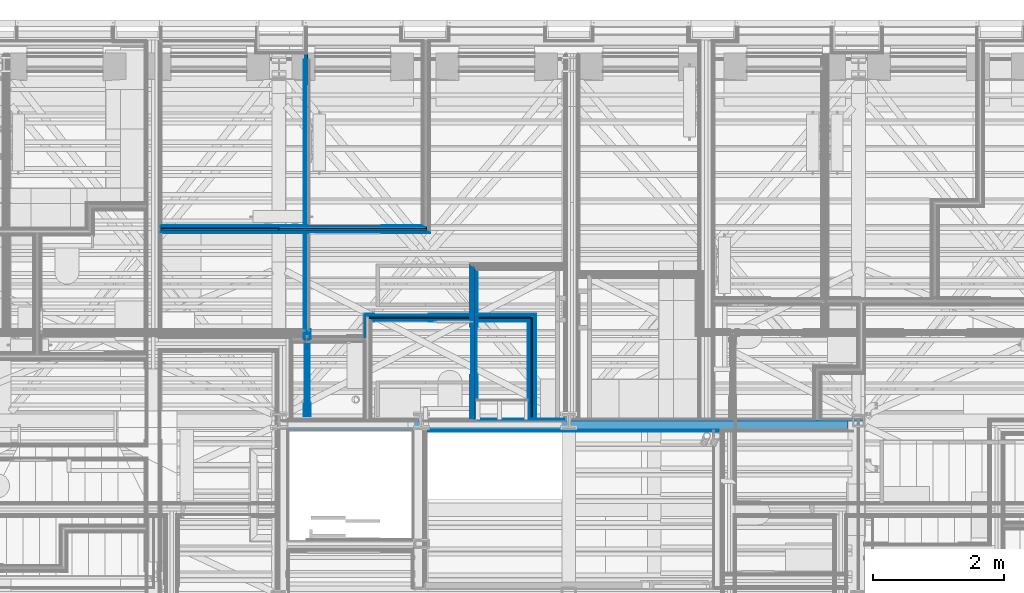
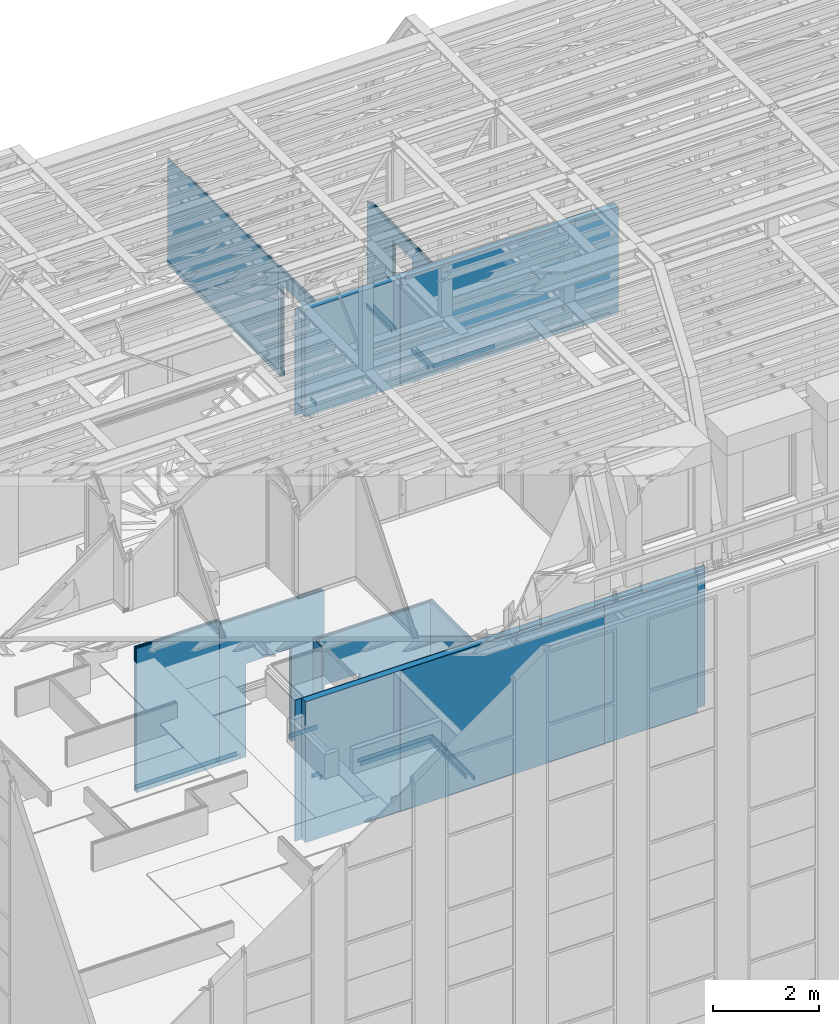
# One storey, part 46 of 183: 53 building element parts, 4 openings, 9 elements without a shape of their own.
"""IFC2X3 building model written with IfcOpenShell, lengths in metres."""

from ifc_helpers import new_model, entity, si_unit, converted_unit, derived_unit, money_unit, direction, frame, frame_2d, origin_with_axes, place, context, subcontext, project, spatial, polyline, rectangle, outline, extrude, clip, halfspace, material, type_object, element, aggregate, save


model = new_model("IFC2X3")

# Units and contexts
model_context = context("Model", 3, precision=1e-05, world=origin_with_axes(), true_north=direction((0.0, 1.0)))
body_context = subcontext(model_context, "Body", "Model", "MODEL_VIEW", scale=1.0)
ifc_project = project(units=[si_unit("LENGTHUNIT", "METRE"), si_unit("AREAUNIT", "SQUARE_METRE"), si_unit("VOLUMEUNIT", "CUBIC_METRE"), si_unit("ABSORBEDDOSEUNIT", "GRAY"), si_unit("AMOUNTOFSUBSTANCEUNIT", "MOLE"), si_unit("DOSEEQUIVALENTUNIT", "SIEVERT"), si_unit("ELECTRICCAPACITANCEUNIT", "FARAD"), si_unit("ELECTRICCHARGEUNIT", "COULOMB"), si_unit("ELECTRICCONDUCTANCEUNIT", "SIEMENS"), si_unit("ELECTRICCURRENTUNIT", "AMPERE"), si_unit("ELECTRICRESISTANCEUNIT", "OHM"), si_unit("ELECTRICVOLTAGEUNIT", "VOLT"), si_unit("ENERGYUNIT", "JOULE"), si_unit("FORCEUNIT", "NEWTON"), si_unit("FREQUENCYUNIT", "HERTZ"), si_unit("ILLUMINANCEUNIT", "LUX"), si_unit("INDUCTANCEUNIT", "HENRY"), si_unit("LUMINOUSFLUXUNIT", "LUMEN"), si_unit("LUMINOUSINTENSITYUNIT", "CANDELA"), si_unit("MAGNETICFLUXDENSITYUNIT", "TESLA"), si_unit("MAGNETICFLUXUNIT", "WEBER"), si_unit("MASSUNIT", "GRAM"), converted_unit("PLANEANGLEUNIT", "degree", entity("IfcReal", 0.0174532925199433), si_unit("PLANEANGLEUNIT", "RADIAN"), dimensions=[0, 0, 0, 0, 0, 0, 0]), si_unit("POWERUNIT", "WATT"), si_unit("PRESSUREUNIT", "PASCAL"), si_unit("RADIOACTIVITYUNIT", "BECQUEREL"), si_unit("SOLIDANGLEUNIT", "STERADIAN"), si_unit("THERMODYNAMICTEMPERATUREUNIT", "KELVIN"), si_unit("TIMEUNIT", "SECOND"), derived_unit("ACCELERATIONUNIT", [(si_unit("LENGTHUNIT", "METRE"), 1), (si_unit("TIMEUNIT", "SECOND"), -2)]), derived_unit("ANGULARVELOCITYUNIT", [(converted_unit("PLANEANGLEUNIT", "degree", entity("IfcReal", 0.0174532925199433), si_unit("PLANEANGLEUNIT", "RADIAN"), dimensions=[0, 0, 0, 0, 0, 0, 0]), 1), (si_unit("TIMEUNIT", "SECOND"), -1)]), derived_unit("CURVATUREUNIT", [(converted_unit("PLANEANGLEUNIT", "degree", entity("IfcReal", 0.0174532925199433), si_unit("PLANEANGLEUNIT", "RADIAN"), dimensions=[0, 0, 0, 0, 0, 0, 0]), 1), (si_unit("LENGTHUNIT", "METRE"), -1)]), derived_unit("DYNAMICVISCOSITYUNIT", [(si_unit("PRESSUREUNIT", "PASCAL"), 1), (si_unit("TIMEUNIT", "SECOND"), 1)]), derived_unit("HEATFLUXDENSITYUNIT", [(si_unit("POWERUNIT", "WATT"), 1), (si_unit("LENGTHUNIT", "METRE"), -2)]), derived_unit("HEATINGVALUEUNIT", [(si_unit("ENERGYUNIT", "JOULE"), 1), (si_unit("MASSUNIT", "GRAM"), -1)]), derived_unit("INTEGERCOUNTRATEUNIT", [(si_unit("TIMEUNIT", "SECOND"), -1)]), derived_unit("IONCONCENTRATIONUNIT", [(si_unit("MASSUNIT", "GRAM"), 1), (si_unit("VOLUMEUNIT", "CUBIC_METRE"), -1)]), derived_unit("ISOTHERMALMOISTURECAPACITYUNIT", [(si_unit("VOLUMEUNIT", "CUBIC_METRE"), 1), (si_unit("MASSUNIT", "GRAM"), -1)]), derived_unit("KINEMATICVISCOSITYUNIT", [(si_unit("AREAUNIT", "SQUARE_METRE"), 1), (si_unit("TIMEUNIT", "SECOND"), -1)]), derived_unit("LINEARFORCEUNIT", [(si_unit("FORCEUNIT", "NEWTON"), 1), (si_unit("LENGTHUNIT", "METRE"), -1)]), derived_unit("LINEARMOMENTUNIT", [(si_unit("FORCEUNIT", "NEWTON"), 1), (si_unit("LENGTHUNIT", "METRE"), -1)]), derived_unit("LINEARSTIFFNESSUNIT", [(si_unit("FORCEUNIT", "NEWTON"), 1), (si_unit("LENGTHUNIT", "METRE"), -1)]), derived_unit("LINEARVELOCITYUNIT", [(si_unit("LENGTHUNIT", "METRE"), 1), (si_unit("TIMEUNIT", "SECOND"), -1)]), derived_unit("LUMINOUSINTENSITYDISTRIBUTIONUNIT", [(si_unit("LUMINOUSINTENSITYUNIT", "CANDELA"), 1), (si_unit("LUMINOUSFLUXUNIT", "LUMEN"), -1)]), derived_unit("MASSDENSITYUNIT", [(si_unit("MASSUNIT", "GRAM"), 1), (si_unit("VOLUMEUNIT", "CUBIC_METRE"), -1)]), derived_unit("MASSFLOWRATEUNIT", [(si_unit("MASSUNIT", "GRAM"), 1), (si_unit("TIMEUNIT", "SECOND"), -1)]), derived_unit("MASSPERLENGTHUNIT", [(si_unit("MASSUNIT", "GRAM"), 1), (si_unit("LENGTHUNIT", "METRE"), -1)]), derived_unit("MODULUSOFELASTICITYUNIT", [(si_unit("FORCEUNIT", "NEWTON"), 1), (si_unit("AREAUNIT", "SQUARE_METRE"), -1)]), derived_unit("MODULUSOFLINEARSUBGRADEREACTIONUNIT", [(si_unit("FORCEUNIT", "NEWTON"), 1), (si_unit("LENGTHUNIT", "METRE"), -2)]), derived_unit("MODULUSOFROTATIONALSUBGRADEREACTIONUNIT", [(si_unit("FORCEUNIT", "NEWTON"), 1), (si_unit("LENGTHUNIT", "METRE"), 1)]), derived_unit("MODULUSOFSUBGRADEREACTIONUNIT", [(si_unit("FORCEUNIT", "NEWTON"), 1), (si_unit("VOLUMEUNIT", "CUBIC_METRE"), -1)]), derived_unit("MOISTUREDIFFUSIVITYUNIT", [(si_unit("VOLUMEUNIT", "CUBIC_METRE"), 1), (si_unit("TIMEUNIT", "SECOND"), -1)]), derived_unit("MOLECULARWEIGHTUNIT", [(si_unit("MASSUNIT", "GRAM"), 1), (si_unit("AMOUNTOFSUBSTANCEUNIT", "MOLE"), -1)]), derived_unit("PLANARFORCEUNIT", [(si_unit("FORCEUNIT", "NEWTON"), 1), (si_unit("LENGTHUNIT", "METRE"), -2)]), derived_unit("ROTATIONALFREQUENCYUNIT", [(si_unit("TIMEUNIT", "SECOND"), -1)]), derived_unit("ROTATIONALMASSUNIT", [(si_unit("MASSUNIT", "GRAM"), 1), (si_unit("LENGTHUNIT", "METRE"), 2)]), derived_unit("ROTATIONALSTIFFNESSUNIT", [(si_unit("FORCEUNIT", "NEWTON"), 1), (si_unit("LENGTHUNIT", "METRE"), 1), (converted_unit("PLANEANGLEUNIT", "degree", entity("IfcReal", 0.0174532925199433), si_unit("PLANEANGLEUNIT", "RADIAN"), dimensions=[0, 0, 0, 0, 0, 0, 0]), -1)]), derived_unit("SECTIONAREAINTEGRALUNIT", [(si_unit("LENGTHUNIT", "METRE"), 5)]), derived_unit("SECTIONMODULUSUNIT", [(si_unit("LENGTHUNIT", "METRE"), 3)]), derived_unit("SHEARMODULUSUNIT", [(si_unit("FORCEUNIT", "NEWTON"), 1), (si_unit("AREAUNIT", "SQUARE_METRE"), -1)]), derived_unit("SOUNDPOWERUNIT", [(si_unit("ENERGYUNIT", "JOULE"), 1), (si_unit("TIMEUNIT", "SECOND"), -1)]), derived_unit("SPECIFICHEATCAPACITYUNIT", [(si_unit("FORCEUNIT", "NEWTON"), 1), (si_unit("MASSUNIT", "GRAM"), -1), (si_unit("THERMODYNAMICTEMPERATUREUNIT", "KELVIN"), -1)]), derived_unit("TEMPERATUREGRADIENTUNIT", [(si_unit("THERMODYNAMICTEMPERATUREUNIT", "KELVIN"), 1), (si_unit("LENGTHUNIT", "METRE"), -1)]), derived_unit("THERMALADMITTANCEUNIT", [(si_unit("POWERUNIT", "WATT"), 1), (si_unit("AREAUNIT", "SQUARE_METRE"), -1), (si_unit("THERMODYNAMICTEMPERATUREUNIT", "KELVIN"), -1)]), derived_unit("THERMALCONDUCTANCEUNIT", [(si_unit("POWERUNIT", "WATT"), 1), (si_unit("LENGTHUNIT", "METRE"), -1), (si_unit("THERMODYNAMICTEMPERATUREUNIT", "KELVIN"), -1)]), derived_unit("THERMALEXPANSIONCOEFFICIENTUNIT", [(si_unit("THERMODYNAMICTEMPERATUREUNIT", "KELVIN"), -1)]), derived_unit("THERMALRESISTANCEUNIT", [(si_unit("AREAUNIT", "SQUARE_METRE"), 1), (si_unit("POWERUNIT", "WATT"), -1)]), derived_unit("THERMALTRANSMITTANCEUNIT", [(si_unit("POWERUNIT", "WATT"), 1), (si_unit("AREAUNIT", "SQUARE_METRE"), -1), (si_unit("THERMODYNAMICTEMPERATUREUNIT", "KELVIN"), -1)]), derived_unit("TORQUEUNIT", [(si_unit("FORCEUNIT", "NEWTON"), 1), (si_unit("LENGTHUNIT", "METRE"), 1)]), derived_unit("VAPORPERMEABILITYUNIT", [(si_unit("MASSUNIT", "GRAM"), 1), (si_unit("TIMEUNIT", "SECOND"), -1)]), derived_unit("VOLUMETRICFLOWRATEUNIT", [(si_unit("VOLUMEUNIT", "CUBIC_METRE"), 1), (si_unit("TIMEUNIT", "SECOND"), -1)]), derived_unit("WARPINGCONSTANTUNIT", [(si_unit("LENGTHUNIT", "METRE"), 6)]), derived_unit("WARPINGMOMENTUNIT", [(si_unit("FORCEUNIT", "NEWTON"), 1), (si_unit("LENGTHUNIT", "METRE"), 2)]), money_unit("GBP")], contexts=[model_context])

# Site, building, storey
site_placement = place(None, origin_with_axes())
site = spatial("IfcSite", under=ifc_project, at=site_placement, Name="Site", CompositionType="ELEMENT")
building_placement = place(site_placement, origin_with_axes())
building = spatial("IfcBuilding", under=site, at=building_placement, Name="Building01", CompositionType="ELEMENT")
storey_placement = place(building_placement, frame((0.0, 0.0, 5.15), z_axis=(0.0, 0.0, 1.0), x_axis=(1.0, 0.0, 0.0)))
storey = spatial("IfcBuildingStorey", under=building, at=storey_placement, Name="1F", CompositionType="ELEMENT", Elevation=5.15)

# Wall, opening, building element parts
wall_type_1 = type_object("IfcWallType", Name="SHE_A-Walls_Type05a_Partition_95mm_tall", PredefinedType="NOTDEFINED")
wall_1_placement = place(storey_placement, frame((10.453871, 10.355, 0.0), z_axis=(0.0, 0.0, 1.0), x_axis=(1.0, 0.0, 0.0)))
wall_1 = element("IfcWall", 1, at=wall_1_placement, inside=storey, type_object=wall_type_1, Name="5A", ObjectType="SHE_A-Walls_Type05a_Partition_95mm_tall")
opening_1_placement = place(wall_1_placement, frame((0.086065, -0.05, 0.0), z_axis=(0.0, 0.0, 1.0), x_axis=(1.0, 0.0, 0.0)))
element("IfcOpeningElement", 2, at=opening_1_placement, cuts=wall_1, Name="Opening", ObjectType="Opening", context=body_context, shape_type="SweptSolid", body=[
    extrude(rectangle(XDim=0.834, YDim=2.142, at=frame_2d((-0.417, 1.071), x_axis=(1.0, 0.0))), frame((0.0, 0.0, 0.0), z_axis=(0.0, 1.0, 0.0), x_axis=(-1.0, 0.0, 0.0)), (0.0, 0.0, 1.0), 0.125),
])
ifc_material_1 = material(Name="A_BSUK_Walls_Timber")
placement_1 = place(wall_1_placement, origin_with_axes())
building_element_part_1 = element("IfcBuildingElementPart", 3, at=placement_1, material=ifc_material_1, Name="1", context=body_context, shape_type="SweptSolid", body=[
    extrude(outline(polyline([(2.439714, -0.035), (0.035, -0.035), (0.05, -0.05), (2.424714, -0.05), (2.439714, -0.035)])), frame((0.0, 0.0, 0.015), z_axis=(0.0, 0.0, 1.0), x_axis=(1.0, 0.0, 0.0)), (0.0, 0.0, 1.0), 0.1),
])
ifc_material_2 = material(Name="A_BSUK_WallInternal_Finishes_Plasterboard")
building_element_part_2 = element("IfcBuildingElementPart", 4, at=placement_1, material=ifc_material_2, Name="2", context=body_context, shape_type="SweptSolid", body=[
    extrude(outline(polyline([(2.451714, -0.023), (0.023, -0.023), (0.035, -0.035), (2.439714, -0.035), (2.451714, -0.023)])), origin_with_axes(), (0.0, 0.0, 1.0), 3.24),
])
ifc_material_3 = material(Name="Air Cavity")
building_element_part_3 = element("IfcBuildingElementPart", 5, at=placement_1, material=ifc_material_3, Name="3", context=body_context, shape_type="SweptSolid", body=[
    extrude(outline(polyline([(2.474714, 0.0), (0.0, 0.0), (0.023, -0.023), (2.451714, -0.023), (2.474714, 0.0)])), origin_with_axes(), (0.0, 0.0, 1.0), 3.24),
])
ifc_material_4 = material(Name="A_BSUK_Insulation")
building_element_part_4 = element("IfcBuildingElementPart", 6, at=placement_1, material=ifc_material_4, Name="4", context=body_context, shape_type="SweptSolid", body=[
    extrude(rectangle(XDim=2.474714, YDim=0.025, at=frame_2d((1.237357, 0.0125), x_axis=(-1.0, 0.0))), origin_with_axes(), (0.0, 0.0, 1.0), 3.24),
])
building_element_part_5 = element("IfcBuildingElementPart", 7, at=placement_1, material=ifc_material_3, Name="5", context=body_context, shape_type="SweptSolid", body=[
    extrude(rectangle(XDim=2.474714, YDim=0.023, at=frame_2d((1.237357, 0.0365), x_axis=(-1.0, 0.0))), origin_with_axes(), (0.0, 0.0, 1.0), 3.24),
])
building_element_part_6 = element("IfcBuildingElementPart", 8, at=placement_1, material=ifc_material_2, Name="6", context=body_context, shape_type="SweptSolid", body=[
    extrude(outline(polyline([(2.534714, 0.06), (-0.06, 0.06), (-0.048, 0.048), (2.522714, 0.048), (2.534714, 0.06)])), origin_with_axes(), (0.0, 0.0, 1.0), 3.24),
])
building_element_part_7 = element("IfcBuildingElementPart", 9, at=placement_1, material=ifc_material_1, Name="7", context=body_context, shape_type="SweptSolid", body=[
    extrude(outline(polyline([(2.549714, 0.075), (-0.075, 0.075), (-0.06, 0.06), (2.534714, 0.06), (2.549714, 0.075)])), frame((0.0, 0.0, 0.015), z_axis=(0.0, 0.0, 1.0), x_axis=(1.0, 0.0, 0.0)), (0.0, 0.0, 1.0), 0.1),
])
aggregate(wall_1, [building_element_part_1, building_element_part_2, building_element_part_3, building_element_part_4, building_element_part_5, building_element_part_6, building_element_part_7])

# Wall, building element parts
wall_2_placement = place(storey_placement, frame((12.928585, 10.38, 0.0), z_axis=(0.0, 0.0, 1.0), x_axis=(0.0, -1.0, 0.0)))
wall_2 = element("IfcWall", 10, at=wall_2_placement, inside=storey, type_object=wall_type_1, Name="5A", ObjectType="SHE_A-Walls_Type05a_Partition_95mm_tall")
placement_2 = place(wall_2_placement, origin_with_axes())
building_element_part_8 = element("IfcBuildingElementPart", 11, at=placement_2, material=ifc_material_1, Name="1", context=body_context, shape_type="SweptSolid", body=[
    extrude(outline(polyline([(1.426872, -0.035), (0.06, -0.035), (0.075, -0.05), (1.426872, -0.05), (1.426872, -0.035)])), frame((0.0, 0.0, 0.015), z_axis=(0.0, 0.0, 1.0), x_axis=(1.0, 0.0, 0.0)), (0.0, 0.0, 1.0), 0.1),
])
building_element_part_9 = element("IfcBuildingElementPart", 12, at=placement_2, material=ifc_material_2, Name="2", context=body_context, shape_type="SweptSolid", body=[
    extrude(outline(polyline([(1.56, -0.023), (0.048, -0.023), (0.06, -0.035), (1.56, -0.035), (1.56, -0.023)])), origin_with_axes(), (0.0, 0.0, 1.0), 3.24),
])
building_element_part_10 = element("IfcBuildingElementPart", 13, at=placement_2, material=ifc_material_3, Name="3", context=body_context, shape_type="SweptSolid", body=[
    extrude(outline(polyline([(1.56, 0.0), (0.025, 0.0), (0.048, -0.023), (1.56, -0.023), (1.56, 0.0)])), origin_with_axes(), (0.0, 0.0, 1.0), 3.24),
])
building_element_part_11 = element("IfcBuildingElementPart", 14, at=placement_2, material=ifc_material_4, Name="4", context=body_context, shape_type="SweptSolid", body=[
    extrude(rectangle(XDim=1.56, YDim=0.025, at=frame_2d((0.78, 0.0125), x_axis=(-1.0, 0.0))), origin_with_axes(), (0.0, 0.0, 1.0), 3.24),
])
building_element_part_12 = element("IfcBuildingElementPart", 15, at=placement_2, material=ifc_material_3, Name="5", context=body_context, shape_type="SweptSolid", body=[
    extrude(rectangle(XDim=1.56, YDim=0.023, at=frame_2d((0.78, 0.0365), x_axis=(-1.0, 0.0))), origin_with_axes(), (0.0, 0.0, 1.0), 3.24),
])
building_element_part_13 = element("IfcBuildingElementPart", 16, at=placement_2, material=ifc_material_2, Name="6", context=body_context, shape_type="SweptSolid", body=[
    extrude(outline(polyline([(1.56, 0.06), (-0.035, 0.06), (-0.023, 0.048), (1.56, 0.048), (1.56, 0.06)])), origin_with_axes(), (0.0, 0.0, 1.0), 3.24),
])
building_element_part_14 = element("IfcBuildingElementPart", 17, at=placement_2, material=ifc_material_1, Name="7", context=body_context, shape_type="SweptSolid", body=[
    extrude(outline(polyline([(1.545, 0.075), (-0.05, 0.075), (-0.035, 0.06), (1.545, 0.06), (1.545, 0.075)])), frame((0.0, 0.0, 0.015), z_axis=(0.0, 0.0, 1.0), x_axis=(1.0, 0.0, 0.0)), (0.0, 0.0, 1.0), 0.1),
])
aggregate(wall_2, [building_element_part_8, building_element_part_9, building_element_part_10, building_element_part_11, building_element_part_12, building_element_part_13, building_element_part_14])

wall_3_placement = place(storey_placement, frame((9.09, 11.703124, 0.0), z_axis=(0.0, 0.0, 1.0), x_axis=(-1.0, 0.0, 0.0)))
wall_3 = element("IfcWall", 18, at=wall_3_placement, inside=storey, type_object=wall_type_1, Name="5A", ObjectType="SHE_A-Walls_Type05a_Partition_95mm_tall")
placement_3 = place(wall_3_placement, origin_with_axes())
building_element_part_15 = element("IfcBuildingElementPart", 19, at=placement_3, material=ifc_material_1, Name="1", context=body_context, shape_type="SweptSolid", body=[
    extrude(rectangle(XDim=1.785331, YDim=0.015, at=frame_2d((0.892666, -0.0675), x_axis=(-1.0, 0.0))), frame((0.0, 0.0, 0.015), z_axis=(0.0, 0.0, 1.0), x_axis=(1.0, 0.0, 0.0)), (0.0, 0.0, 1.0), 0.1),
])
building_element_part_16 = element("IfcBuildingElementPart", 20, at=placement_3, material=ifc_material_2, Name="2", context=body_context, shape_type="SweptSolid", body=[
    extrude(rectangle(XDim=1.800331, YDim=0.012, at=frame_2d((0.900166, -0.054), x_axis=(1.0, 0.0))), origin_with_axes(), (0.0, 0.0, 1.0), 3.32),
])
building_element_part_17 = element("IfcBuildingElementPart", 21, at=placement_3, material=ifc_material_3, Name="3", context=body_context, shape_type="SweptSolid", body=[
    extrude(rectangle(XDim=1.800331, YDim=0.023, at=frame_2d((0.900166, -0.0365), x_axis=(1.0, 0.0))), origin_with_axes(), (0.0, 0.0, 1.0), 3.32),
])
building_element_part_18 = element("IfcBuildingElementPart", 22, at=placement_3, material=ifc_material_4, Name="4", context=body_context, shape_type="SweptSolid", body=[
    extrude(rectangle(XDim=1.800331, YDim=0.025, at=frame_2d((0.900166, -0.0125), x_axis=(1.0, 0.0))), origin_with_axes(), (0.0, 0.0, 1.0), 3.32),
])
building_element_part_19 = element("IfcBuildingElementPart", 23, at=placement_3, material=ifc_material_3, Name="5", context=body_context, shape_type="SweptSolid", body=[
    extrude(rectangle(XDim=1.800331, YDim=0.023, at=frame_2d((0.900166, 0.0115), x_axis=(1.0, 0.0))), origin_with_axes(), (0.0, 0.0, 1.0), 3.32),
])
building_element_part_20 = element("IfcBuildingElementPart", 24, at=placement_3, material=ifc_material_2, Name="6", context=body_context, shape_type="SweptSolid", body=[
    extrude(rectangle(XDim=1.800331, YDim=0.012, at=frame_2d((0.900166, 0.029), x_axis=(1.0, 0.0))), origin_with_axes(), (0.0, 0.0, 1.0), 3.32),
])
building_element_part_21 = element("IfcBuildingElementPart", 25, at=placement_3, material=ifc_material_1, Name="7", context=body_context, shape_type="SweptSolid", body=[
    extrude(rectangle(XDim=1.785331, YDim=0.015, at=frame_2d((0.892666, 0.0425), x_axis=(-1.0, 0.0))), frame((0.0, 0.0, 0.015), z_axis=(0.0, 0.0, 1.0), x_axis=(1.0, 0.0, 0.0)), (0.0, 0.0, 1.0), 0.1),
])
aggregate(wall_3, [building_element_part_15, building_element_part_16, building_element_part_17, building_element_part_18, building_element_part_19, building_element_part_20, building_element_part_21])

# Wall, opening, building element parts
wall_4_placement = place(storey_placement, frame((9.09, 11.703124, 0.0), z_axis=(0.0, 0.0, 1.0), x_axis=(1.0, 0.0, 0.0)))
wall_4 = element("IfcWall", 26, at=wall_4_placement, inside=storey, type_object=wall_type_1, Name="5A", ObjectType="SHE_A-Walls_Type05a_Partition_95mm_tall")
opening_2_placement = place(wall_4_placement, frame((0.579, -0.05, -0.015), z_axis=(0.0, 0.0, 1.0), x_axis=(1.0, 0.0, 0.0)))
element("IfcOpeningElement", 27, at=opening_2_placement, cuts=wall_4, Name="Opening", ObjectType="Opening", context=body_context, shape_type="SweptSolid", body=[
    extrude(outline(polyline([(-0.042, 0.0), (-0.042, 0.015), (0.0, 0.015), (0.0, 2.157), (-0.984, 2.157), (-0.984, 0.015), (-0.840883, 0.015), (-0.840883, 0.0), (-0.042, 0.0)])), frame((0.0, 0.0, 0.0), z_axis=(0.0, 1.0, 0.0), x_axis=(-1.0, 0.0, 0.0)), (0.0, 0.0, 1.0), 0.125),
    extrude(outline(polyline([(-0.942, 0.015), (-0.942, 0.0), (-0.042, 0.0), (-0.042, 0.015), (0.0, 0.015), (0.0, 2.157), (-0.984, 2.157), (-0.984, 0.015), (-0.942, 0.015)])), frame((0.0, 0.015, 0.0), z_axis=(0.0, 1.0, 0.0), x_axis=(-1.0, 0.0, 0.0)), (0.0, 0.0, 1.0), 0.012),
    extrude(outline(polyline([(0.0, 2.142), (0.0, 2.157), (-0.984, 2.157), (-0.984, 0.015), (-0.840883, 0.015), (-0.840883, 0.0), (0.143117, 0.0), (0.143117, 2.142), (0.0, 2.142)])), frame((0.0, 0.0, 0.0), z_axis=(0.0, 1.0, 0.0), x_axis=(-1.0, 0.0, 0.0)), (0.0, 0.0, 1.0), 0.015),
    extrude(outline(polyline([(-0.942, 0.015), (-0.942, 0.0), (-0.042, 0.0), (-0.042, 0.015), (0.0, 0.015), (0.0, 2.157), (-0.984, 2.157), (-0.984, 0.015), (-0.942, 0.015)])), frame((0.0, 0.027, 0.0), z_axis=(0.0, 1.0, 0.0), x_axis=(-1.0, 0.0, 0.0)), (0.0, 0.0, 1.0), 0.023),
    extrude(outline(polyline([(-0.942, 0.015), (-0.942, 0.0), (-0.042, 0.0), (-0.042, 0.015), (0.0, 0.015), (0.0, 2.157), (-0.984, 2.157), (-0.984, 0.015), (-0.942, 0.015)])), frame((0.0, 0.05, 0.0), z_axis=(0.0, 1.0, 0.0), x_axis=(-1.0, 0.0, 0.0)), (0.0, 0.0, 1.0), 0.025),
    extrude(outline(polyline([(-0.942, 0.015), (-0.942, 0.0), (-0.042, 0.0), (-0.042, 0.015), (0.0, 0.015), (0.0, 2.157), (-0.984, 2.157), (-0.984, 0.015), (-0.942, 0.015)])), frame((0.0, 0.075, 0.0), z_axis=(0.0, 1.0, 0.0), x_axis=(-1.0, 0.0, 0.0)), (0.0, 0.0, 1.0), 0.023),
    extrude(outline(polyline([(-0.942, 0.015), (-0.942, 0.0), (-0.042, 0.0), (-0.042, 0.015), (0.0, 0.015), (0.0, 2.157), (-0.984, 2.157), (-0.984, 0.015), (-0.942, 0.015)])), frame((0.0, 0.098, 0.0), z_axis=(0.0, 1.0, 0.0), x_axis=(-1.0, 0.0, 0.0)), (0.0, 0.0, 1.0), 0.012),
    extrude(outline(polyline([(-0.840883, 0.015), (-0.840883, 0.0), (0.143117, 0.0), (0.143117, 2.142), (0.0, 2.142), (0.0, 2.157), (-0.984, 2.157), (-0.984, 0.015), (-0.840883, 0.015)])), frame((0.0, 0.11, 0.0), z_axis=(0.0, 1.0, 0.0), x_axis=(-1.0, 0.0, 0.0)), (0.0, 0.0, 1.0), 0.015),
])
placement_4 = place(wall_4_placement, origin_with_axes())
building_element_part_22 = element("IfcBuildingElementPart", 28, at=placement_4, material=ifc_material_1, Name="1", context=body_context, shape_type="SweptSolid", body=[
    extrude(outline(polyline([(2.285, -0.035), (0.0, -0.035), (0.0, -0.05), (2.3, -0.05), (2.285, -0.035)])), frame((0.0, 0.0, 0.015), z_axis=(0.0, 0.0, 1.0), x_axis=(1.0, 0.0, 0.0)), (0.0, 0.0, 1.0), 0.1),
])
building_element_part_23 = element("IfcBuildingElementPart", 29, at=placement_4, material=ifc_material_2, Name="2", context=body_context, shape_type="SweptSolid", body=[
    extrude(outline(polyline([(2.273, -0.023), (0.0, -0.023), (0.0, -0.035), (2.285, -0.035), (2.273, -0.023)])), origin_with_axes(), (0.0, 0.0, 1.0), 3.24),
])
building_element_part_24 = element("IfcBuildingElementPart", 30, at=placement_4, material=ifc_material_3, Name="3", context=body_context, shape_type="SweptSolid", body=[
    extrude(outline(polyline([(2.25, 0.0), (0.0, 0.0), (0.0, -0.023), (2.273, -0.023), (2.25, 0.0)])), origin_with_axes(), (0.0, 0.0, 1.0), 3.24),
])
building_element_part_25 = element("IfcBuildingElementPart", 31, at=placement_4, material=ifc_material_4, Name="4", context=body_context, shape_type="SweptSolid", body=[
    extrude(rectangle(XDim=2.25, YDim=0.025, at=frame_2d((1.125, 0.0125), x_axis=(-1.0, 0.0))), origin_with_axes(), (0.0, 0.0, 1.0), 3.24),
])
building_element_part_26 = element("IfcBuildingElementPart", 32, at=placement_4, material=ifc_material_3, Name="5", context=body_context, shape_type="SweptSolid", body=[
    extrude(rectangle(XDim=2.25, YDim=0.023, at=frame_2d((1.125, 0.0365), x_axis=(-1.0, 0.0))), origin_with_axes(), (0.0, 0.0, 1.0), 3.24),
])
building_element_part_27 = element("IfcBuildingElementPart", 33, at=placement_4, material=ifc_material_2, Name="6", context=body_context, shape_type="SweptSolid", body=[
    extrude(outline(polyline([(2.19, 0.06), (0.0, 0.06), (0.0, 0.048), (2.202, 0.048), (2.19, 0.06)])), origin_with_axes(), (0.0, 0.0, 1.0), 3.24),
])
building_element_part_28 = element("IfcBuildingElementPart", 34, at=placement_4, material=ifc_material_1, Name="7", context=body_context, shape_type="SweptSolid", body=[
    extrude(outline(polyline([(2.175, 0.075), (0.0, 0.075), (0.0, 0.06), (2.19, 0.06), (2.175, 0.075)])), frame((0.0, 0.0, 0.015), z_axis=(0.0, 0.0, 1.0), x_axis=(1.0, 0.0, 0.0)), (0.0, 0.0, 1.0), 0.1),
])
aggregate(wall_4, [building_element_part_22, building_element_part_23, building_element_part_24, building_element_part_25, building_element_part_26, building_element_part_27, building_element_part_28])

# Wall, building element parts
wall_type_2 = type_object("IfcWallType", Name="SHE_A-Walls_Type03a_BlockworkWall_170mm", PredefinedType="NOTDEFINED")
wall_5_placement = place(storey_placement, frame((17.75, 8.805, 0.0), z_axis=(0.0, 0.0, 1.0), x_axis=(-1.0, 0.0, 0.0)))
wall_5 = element("IfcWall", 35, at=wall_5_placement, inside=storey, type_object=wall_type_2, Name="4B", ObjectType="SHE_A-Walls_Type03a_BlockworkWall_170mm")
placement_5 = place(wall_5_placement, origin_with_axes())
building_element_part_29 = element("IfcBuildingElementPart", 36, at=placement_5, material=ifc_material_2, Name="7", context=body_context, shape_type="SweptSolid", body=[
    extrude(rectangle(XDim=8.91, YDim=0.015, at=frame_2d((4.22, -0.0075), x_axis=(-1.0, 0.0))), origin_with_axes(), (0.0, 0.0, 1.0), 3.24),
])
ifc_material_5 = material(Name="A_BSUK_WallsInternal_Block")
building_element_part_30 = element("IfcBuildingElementPart", 37, at=placement_5, material=ifc_material_5, Name="8", context=body_context, shape_type="SweptSolid", body=[
    extrude(rectangle(XDim=0.14, YDim=8.525, at=frame_2d((4.2625, 0.07), x_axis=(0.0, -1.0))), origin_with_axes(), (0.0, 0.0, 1.0), 3.24),
])
ifc_material_6 = material(Name="A_BSUK_WallInternal_Finishes_Plaster")
building_element_part_31 = element("IfcBuildingElementPart", 38, at=placement_5, material=ifc_material_6, Name="11", context=body_context, shape_type="SweptSolid", body=[
    extrude(rectangle(XDim=4.43, YDim=0.015, at=frame_2d((4.25, 0.1475), x_axis=(-1.0, 0.0))), origin_with_axes(), (0.0, 0.0, 1.0), 3.24),
])
aggregate(wall_5, [building_element_part_29, building_element_part_30, building_element_part_31])

# Wall, building element part
wall_6_placement = place(storey_placement, frame((10.453871, 8.82, 0.0), z_axis=(0.0, 0.0, 1.0), x_axis=(0.0, 1.0, 0.0)))
wall_6 = element("IfcWall", 39, at=wall_6_placement, inside=storey, type_object=wall_type_1, Name="5A", ObjectType="SHE_A-Walls_Type05a_Partition_95mm_tall")
building_element_part_32_placement = place(wall_6_placement, origin_with_axes())
building_element_part_32 = element("IfcBuildingElementPart", 40, at=building_element_part_32_placement, material=ifc_material_2, Name="7", context=body_context, shape_type="SweptSolid", body=[
    extrude(outline(polyline([(1.595, 0.06), (1.255704, 0.06), (1.255704, 0.048), (1.583, 0.048), (1.595, 0.06)])), origin_with_axes(), (0.0, 0.0, 1.0), 3.24),
])
aggregate(wall_6, [building_element_part_32])

# Wall, opening, building element parts
wall_type_3 = type_object("IfcWallType", Name="SHE_A-Walls_Type05b_Partition_80mm", PredefinedType="NOTDEFINED")
wall_7_placement = place(storey_placement, frame((9.533024, 8.871434, 9.78), z_axis=(0.0, 0.0, 1.0), x_axis=(0.0, 1.0, 0.0)))
wall_7 = element("IfcWall", 41, at=wall_7_placement, inside=storey, type_object=wall_type_3, Name="5B", ObjectType="SHE_A-Walls_Type05b_Partition_80mm")
opening_3_placement = place(wall_7_placement, frame((0.186506, 0.068, 0.0), z_axis=(0.0, 0.0, 1.0), x_axis=(1.0, 0.0, 0.0)))
element("IfcOpeningElement", 42, at=opening_3_placement, cuts=wall_7, Name="Opening", ObjectType="Opening", context=body_context, shape_type="SweptSolid", body=[
    extrude(rectangle(XDim=0.984, YDim=2.142, at=frame_2d((0.492, 1.071), x_axis=(1.0, 0.0))), frame((0.0, 0.0, 0.0), z_axis=(0.0, -1.0, 0.0), x_axis=(1.0, 0.0, 0.0)), (0.0, 0.0, 1.0), 0.11),
])
placement_6 = place(wall_7_placement, origin_with_axes())
building_element_part_33 = element("IfcBuildingElementPart", 43, at=placement_6, material=ifc_material_1, Name="1", context=body_context, shape_type="SweptSolid", body=[
    extrude(outline(polyline([(1.308506, -0.027), (0.0, -0.027), (0.0, -0.042), (1.323506, -0.042), (1.308506, -0.027)])), frame((0.0, 0.0, 0.015), z_axis=(0.0, 0.0, 1.0), x_axis=(1.0, 0.0, 0.0)), (0.0, 0.0, 1.0), 0.1),
])
building_element_part_34 = element("IfcBuildingElementPart", 44, at=placement_6, material=ifc_material_2, Name="2", context=body_context, shape_type="SweptSolid", body=[
    extrude(outline(polyline([(1.293506, -0.012), (0.0, -0.012), (0.0, -0.027), (1.308506, -0.027), (1.293506, -0.012)])), origin_with_axes(), (0.0, 0.0, 1.0), 2.468),
])
building_element_part_35 = element("IfcBuildingElementPart", 45, at=placement_6, material=ifc_material_3, Name="3", context=body_context, shape_type="SweptSolid", body=[
    extrude(outline(polyline([(1.281506, 0.0), (0.0, 0.0), (0.0, -0.012), (1.293506, -0.012), (1.281506, 0.0)])), origin_with_axes(), (0.0, 0.0, 1.0), 2.468),
])
building_element_part_36 = element("IfcBuildingElementPart", 46, at=placement_6, material=ifc_material_4, Name="4", context=body_context, shape_type="Clipping", body=[
    clip(extrude(rectangle(XDim=5.50471, YDim=0.025, at=frame_2d((2.752355, 0.0125), x_axis=(-1.0, 0.0))), origin_with_axes(), (0.0, 0.0, 1.0), 2.468), halfspace(frame((4.979057, 0.0, 1.617794), z_axis=(-0.95105652, 0.0, -0.30901699), x_axis=(0.0, -1.0, 0.0)), True)),
])
building_element_part_37 = element("IfcBuildingElementPart", 47, at=placement_6, material=ifc_material_3, Name="5", context=body_context, shape_type="Clipping", body=[
    clip(extrude(rectangle(XDim=5.50471, YDim=0.013, at=frame_2d((2.752355, 0.0315), x_axis=(-1.0, 0.0))), origin_with_axes(), (0.0, 0.0, 1.0), 2.468), halfspace(frame((4.979057, 0.0, 1.617794), z_axis=(-0.95105652, 0.0, -0.30901699), x_axis=(0.0, -1.0, 0.0)), True)),
])
building_element_part_38 = element("IfcBuildingElementPart", 48, at=placement_6, material=ifc_material_2, Name="6", context=body_context, shape_type="SweptSolid", body=[
    extrude(rectangle(XDim=1.243506, YDim=0.015, at=frame_2d((0.621753, 0.0455), x_axis=(-1.0, 0.0))), origin_with_axes(), (0.0, 0.0, 1.0), 2.468),
])
building_element_part_39 = element("IfcBuildingElementPart", 49, at=placement_6, material=ifc_material_2, Name="7", context=body_context, shape_type="SweptSolid", body=[
    extrude(rectangle(XDim=5.424766, YDim=0.015, at=frame_2d((2.712383, 0.0455), x_axis=(-1.0, 0.0))), origin_with_axes(), (0.0, 0.0, 1.0), 2.468),
])
building_element_part_40 = element("IfcBuildingElementPart", 50, at=placement_6, material=ifc_material_1, Name="8", context=body_context, shape_type="SweptSolid", body=[
    extrude(outline(polyline([(1.213506, 0.068), (0.0, 0.068), (0.0, 0.053), (1.228506, 0.053), (1.213506, 0.068)])), frame((0.0, 0.0, 0.015), z_axis=(0.0, 0.0, 1.0), x_axis=(1.0, 0.0, 0.0)), (0.0, 0.0, 1.0), 0.1),
])
building_element_part_41 = element("IfcBuildingElementPart", 51, at=placement_6, material=ifc_material_1, Name="9", context=body_context, shape_type="SweptSolid", body=[
    extrude(rectangle(XDim=5.424766, YDim=0.015, at=frame_2d((2.712383, 0.0605), x_axis=(-1.0, 0.0))), frame((0.0, 0.0, 0.015), z_axis=(0.0, 0.0, 1.0), x_axis=(1.0, 0.0, 0.0)), (0.0, 0.0, 1.0), 0.1),
])
aggregate(wall_7, [building_element_part_33, building_element_part_34, building_element_part_35, building_element_part_36, building_element_part_37, building_element_part_38, building_element_part_39, building_element_part_40, building_element_part_41])

wall_8_placement = place(storey_placement, frame((12.044381, 11.156849, 9.78), z_axis=(0.0, 0.0, 1.0), x_axis=(0.0, -1.0, 0.0)))
wall_8 = element("IfcWall", 52, at=wall_8_placement, inside=storey, type_object=wall_type_3, Name="5B", ObjectType="SHE_A-Walls_Type05b_Partition_80mm")
opening_4_placement = place(wall_8_placement, frame((0.926, -0.042, 0.0), z_axis=(0.0, 0.0, 1.0), x_axis=(1.0, 0.0, 0.0)))
element("IfcOpeningElement", 53, at=opening_4_placement, cuts=wall_8, Name="Opening", ObjectType="Opening", context=body_context, shape_type="SweptSolid", body=[
    extrude(rectangle(XDim=0.734, YDim=2.142, at=frame_2d((-0.367, 1.071), x_axis=(1.0, 0.0))), frame((0.0, 0.0, 0.0), z_axis=(0.0, 1.0, 0.0), x_axis=(-1.0, 0.0, 0.0)), (0.0, 0.0, 1.0), 0.11),
])
placement_7 = place(wall_8_placement, origin_with_axes())
building_element_part_42 = element("IfcBuildingElementPart", 54, at=placement_7, material=ifc_material_1, Name="1", context=body_context, shape_type="SweptSolid", body=[
    extrude(outline(polyline([(2.321849, -0.027), (-0.027, -0.027), (-0.042, -0.042), (2.321849, -0.042), (2.321849, -0.027)])), frame((0.0, 0.0, 0.015), z_axis=(0.0, 0.0, 1.0), x_axis=(1.0, 0.0, 0.0)), (0.0, 0.0, 1.0), 0.1),
])
building_element_part_43 = element("IfcBuildingElementPart", 55, at=placement_7, material=ifc_material_2, Name="2", context=body_context, shape_type="SweptSolid", body=[
    extrude(outline(polyline([(2.336849, -0.012), (-0.012, -0.012), (-0.027, -0.027), (2.336849, -0.027), (2.336849, -0.012)])), origin_with_axes(), (0.0, 0.0, 1.0), 2.468),
])
building_element_part_44 = element("IfcBuildingElementPart", 56, at=placement_7, material=ifc_material_3, Name="3", context=body_context, shape_type="SweptSolid", body=[
    extrude(outline(polyline([(2.336849, 0.0), (0.0, 0.0), (-0.012, -0.012), (2.336849, -0.012), (2.336849, 0.0)])), origin_with_axes(), (0.0, 0.0, 1.0), 2.468),
])
building_element_part_45 = element("IfcBuildingElementPart", 57, at=placement_7, material=ifc_material_4, Name="4", context=body_context, shape_type="SweptSolid", body=[
    extrude(outline(polyline([(2.336849, 0.025), (0.025, 0.025), (0.0, 0.0), (2.336849, 0.0), (2.336849, 0.025)])), origin_with_axes(), (0.0, 0.0, 1.0), 2.468),
])
building_element_part_46 = element("IfcBuildingElementPart", 58, at=placement_7, material=ifc_material_3, Name="5", context=body_context, shape_type="SweptSolid", body=[
    extrude(outline(polyline([(2.336849, 0.038), (0.038, 0.038), (0.025, 0.025), (2.336849, 0.025), (2.336849, 0.038)])), origin_with_axes(), (0.0, 0.0, 1.0), 2.468),
])
building_element_part_47 = element("IfcBuildingElementPart", 59, at=placement_7, material=ifc_material_2, Name="6", context=body_context, shape_type="SweptSolid", body=[
    extrude(outline(polyline([(2.336849, 0.053), (0.053, 0.053), (0.038, 0.038), (2.336849, 0.038), (2.336849, 0.053)])), origin_with_axes(), (0.0, 0.0, 1.0), 2.468),
])
building_element_part_48 = element("IfcBuildingElementPart", 60, at=placement_7, material=ifc_material_1, Name="7", context=body_context, shape_type="SweptSolid", body=[
    extrude(outline(polyline([(2.336849, 0.068), (0.068, 0.068), (0.053, 0.053), (2.336849, 0.053), (2.336849, 0.068)])), frame((0.0, 0.0, 0.015), z_axis=(0.0, 0.0, 1.0), x_axis=(1.0, 0.0, 0.0)), (0.0, 0.0, 1.0), 0.1),
])
aggregate(wall_8, [building_element_part_42, building_element_part_43, building_element_part_44, building_element_part_45, building_element_part_46, building_element_part_47, building_element_part_48])

# Wall, building element parts
wall_9_placement = place(storey_placement, frame((9.215, 8.665, 9.78), z_axis=(0.0, 0.0, 1.0), x_axis=(1.0, 0.0, 0.0)))
wall_9 = element("IfcWall", 61, at=wall_9_placement, inside=storey, type_object=wall_type_2, Name="4B", ObjectType="SHE_A-Walls_Type03a_BlockworkWall_170mm")
placement_8 = place(wall_9_placement, origin_with_axes())
building_element_part_49 = element("IfcBuildingElementPart", 62, at=placement_8, material=ifc_material_1, Name="1", context=body_context, shape_type="SweptSolid", body=[
    extrude(rectangle(XDim=4.52344, YDim=0.015, at=frame_2d((4.34672, -0.0225), x_axis=(-1.0, 0.0))), frame((0.0, 0.0, 0.015), z_axis=(0.0, 0.0, 1.0), x_axis=(1.0, 0.0, 0.0)), (0.0, 0.0, 1.0), 0.1),
])
building_element_part_50 = element("IfcBuildingElementPart", 63, at=placement_8, material=ifc_material_2, Name="3", context=body_context, shape_type="SweptSolid", body=[
    extrude(rectangle(XDim=4.73844, YDim=0.015, at=frame_2d((4.43922, -0.0075), x_axis=(1.0, 0.0))), origin_with_axes(), (0.0, 0.0, 1.0), 2.468),
])
building_element_part_51 = element("IfcBuildingElementPart", 64, at=placement_8, material=ifc_material_5, Name="4", context=body_context, shape_type="SweptSolid", body=[
    extrude(rectangle(XDim=0.14, YDim=6.80844, at=frame_2d((3.40422, 0.07), x_axis=(0.0, -1.0))), origin_with_axes(), (0.0, 0.0, 1.0), 2.468),
])
building_element_part_52 = element("IfcBuildingElementPart", 65, at=placement_8, material=ifc_material_6, Name="5", context=body_context, shape_type="SweptSolid", body=[
    extrude(rectangle(XDim=0.015, YDim=6.94844, at=frame_2d((3.33422, 0.1475), x_axis=(0.0, -1.0))), origin_with_axes(), (0.0, 0.0, 1.0), 2.468),
])
building_element_part_53 = element("IfcBuildingElementPart", 66, at=placement_8, material=ifc_material_1, Name="8", context=body_context, shape_type="SweptSolid", body=[
    extrude(rectangle(XDim=1.322619, YDim=0.015, at=frame_2d((3.55869, 0.1625), x_axis=(-1.0, 0.0))), frame((0.0, 0.0, 0.015), z_axis=(0.0, 0.0, 1.0), x_axis=(1.0, 0.0, 0.0)), (0.0, 0.0, 1.0), 0.1),
])
aggregate(wall_9, [building_element_part_49, building_element_part_50, building_element_part_51, building_element_part_52, building_element_part_53])

save(model, "model.ifc")
